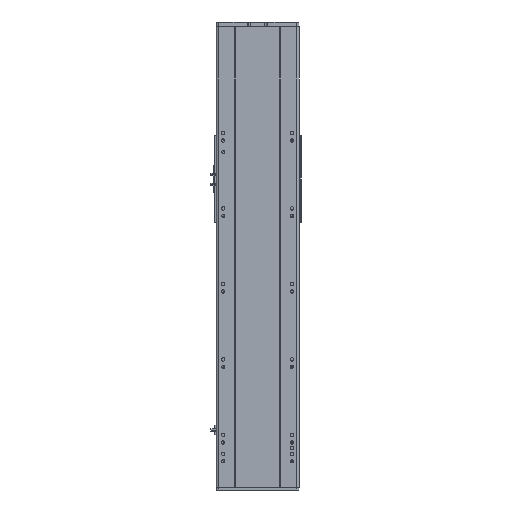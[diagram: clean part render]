
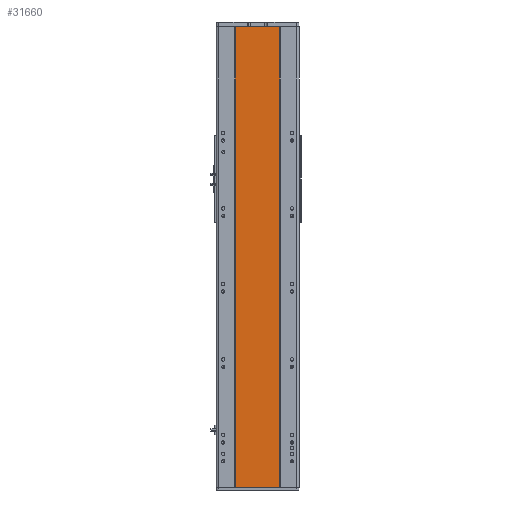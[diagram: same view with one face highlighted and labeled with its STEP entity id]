
A CAD part, front view. The second image highlights one B-rep face of the part: STEP entity #31660.
In plain terms, the highlighted planar face has unit normal (0, -1, 0).
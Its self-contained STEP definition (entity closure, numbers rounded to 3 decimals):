
#2098 = VECTOR ( 'NONE', #9570, 1000. ) ;
#2491 = EDGE_CURVE ( 'NONE', #12539, #21257, #6390, .T. ) ;
#6194 = VERTEX_POINT ( 'NONE', #22823 ) ;
#6390 = LINE ( 'NONE', #16490, #26466 ) ;
#6526 = VERTEX_POINT ( 'NONE', #14629 ) ;
#6838 = ORIENTED_EDGE ( 'NONE', *, *, #6997, .T. ) ;
#6997 = EDGE_CURVE ( 'NONE', #6526, #6194, #32752, .T. ) ;
#7982 = FACE_OUTER_BOUND ( 'NONE', #32898, .T. ) ;
#8775 = DIRECTION ( 'NONE',  ( -1., 0., 0. ) ) ;
#9157 = PLANE ( 'NONE',  #28016 ) ;
#9570 = DIRECTION ( 'NONE',  ( 0., 0., -1. ) ) ;
#10083 = ORIENTED_EDGE ( 'NONE', *, *, #36616, .T. ) ;
#12539 = VERTEX_POINT ( 'NONE', #33936 ) ;
#12784 = CARTESIAN_POINT ( 'NONE',  ( -59., 1., 610.5 ) ) ;
#13331 = DIRECTION ( 'NONE',  ( 1., 0., 0. ) ) ;
#14629 = CARTESIAN_POINT ( 'NONE',  ( -59., 1., -610.5 ) ) ;
#16329 = CARTESIAN_POINT ( 'NONE',  ( -59., 1., -610.5 ) ) ;
#16490 = CARTESIAN_POINT ( 'NONE',  ( -59., 1., 610.5 ) ) ;
#18690 = CARTESIAN_POINT ( 'NONE',  ( 59., 1., 610.5 ) ) ;
#19898 = LINE ( 'NONE', #12784, #2098 ) ;
#21257 = VERTEX_POINT ( 'NONE', #18690 ) ;
#22060 = DIRECTION ( 'NONE',  ( 1., 0., 0. ) ) ;
#22405 = VECTOR ( 'NONE', #24468, 1000. ) ;
#22823 = CARTESIAN_POINT ( 'NONE',  ( 59., 1., -610.5 ) ) ;
#24468 = DIRECTION ( 'NONE',  ( 0., 0., -1. ) ) ;
#24988 = EDGE_CURVE ( 'NONE', #21257, #6194, #27881, .T. ) ;
#26466 = VECTOR ( 'NONE', #13331, 1000. ) ;
#26853 = VECTOR ( 'NONE', #22060, 1000. ) ;
#27881 = LINE ( 'NONE', #30314, #22405 ) ;
#28016 = AXIS2_PLACEMENT_3D ( 'NONE', #29168, #34797, #8775 ) ;
#29168 = CARTESIAN_POINT ( 'NONE',  ( -59., 1., 610.5 ) ) ;
#30314 = CARTESIAN_POINT ( 'NONE',  ( 59., 1., 610.5 ) ) ;
#31660 = ADVANCED_FACE ( 'NONE', ( #7982 ), #9157, .F. ) ;
#32090 = ORIENTED_EDGE ( 'NONE', *, *, #2491, .F. ) ;
#32752 = LINE ( 'NONE', #16329, #26853 ) ;
#32830 = ORIENTED_EDGE ( 'NONE', *, *, #24988, .F. ) ;
#32898 = EDGE_LOOP ( 'NONE', ( #6838, #32830, #32090, #10083 ) ) ;
#33936 = CARTESIAN_POINT ( 'NONE',  ( -59., 1., 610.5 ) ) ;
#34797 = DIRECTION ( 'NONE',  ( 0., 1., 0. ) ) ;
#36616 = EDGE_CURVE ( 'NONE', #12539, #6526, #19898, .T. ) ;
